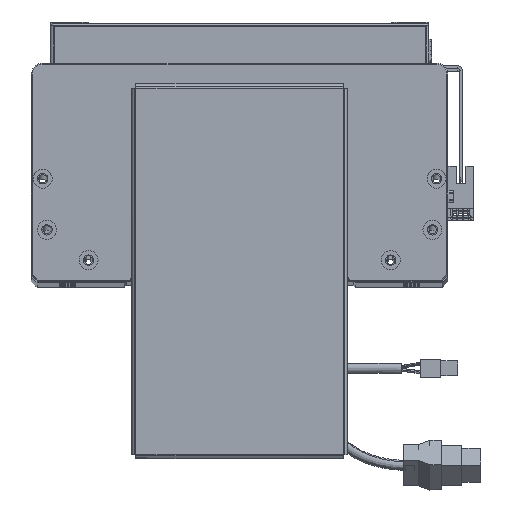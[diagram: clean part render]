
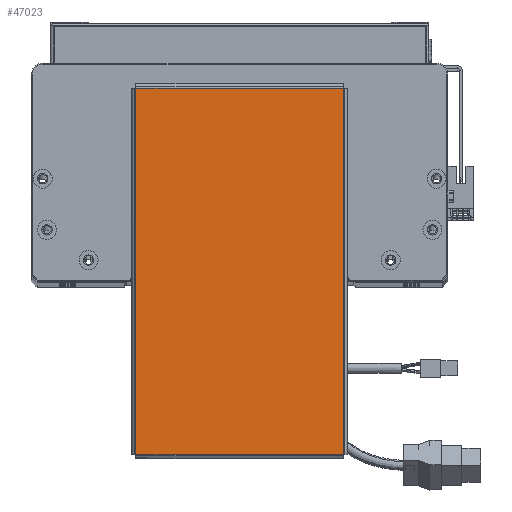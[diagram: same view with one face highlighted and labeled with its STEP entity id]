
A CAD part, top view. The second image highlights one B-rep face of the part: STEP entity #47023.
In plain terms, the highlighted planar face has unit normal (0, 0, 1).
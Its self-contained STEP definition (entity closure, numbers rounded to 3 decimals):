
#2224 = VECTOR ( 'NONE', #2305, 1000. ) ;
#2305 = DIRECTION ( 'NONE',  ( 0., 1., 0. ) ) ;
#3253 = EDGE_LOOP ( 'NONE', ( #23379, #36794, #6513, #28629 ) ) ;
#3279 = DIRECTION ( 'NONE',  ( 1., 0., 0. ) ) ;
#3644 = CARTESIAN_POINT ( 'NONE',  ( 96.763, -54.793, 0. ) ) ;
#6513 = ORIENTED_EDGE ( 'NONE', *, *, #23182, .T. ) ;
#7172 = CARTESIAN_POINT ( 'NONE',  ( -96.763, -54.763, 0. ) ) ;
#8309 = FACE_OUTER_BOUND ( 'NONE', #3253, .T. ) ;
#10160 = VERTEX_POINT ( 'NONE', #14798 ) ;
#11253 = LINE ( 'NONE', #38232, #30246 ) ;
#13963 = EDGE_CURVE ( 'NONE', #20159, #10160, #50251, .T. ) ;
#14798 = CARTESIAN_POINT ( 'NONE',  ( 96.763, -54.763, 0. ) ) ;
#14892 = DIRECTION ( 'NONE',  ( 0., -1., 0. ) ) ;
#16257 = LINE ( 'NONE', #3644, #2224 ) ;
#17020 = EDGE_CURVE ( 'NONE', #10160, #53255, #16257, .T. ) ;
#19674 = DIRECTION ( 'NONE',  ( 0., 0., 1. ) ) ;
#20159 = VERTEX_POINT ( 'NONE', #7172 ) ;
#21433 = VECTOR ( 'NONE', #30116, 1000. ) ;
#22757 = CARTESIAN_POINT ( 'NONE',  ( -96.763, 54.763, 0. ) ) ;
#23182 = EDGE_CURVE ( 'NONE', #53255, #23314, #11253, .T. ) ;
#23314 = VERTEX_POINT ( 'NONE', #22757 ) ;
#23379 = ORIENTED_EDGE ( 'NONE', *, *, #13963, .T. ) ;
#24187 = EDGE_CURVE ( 'NONE', #23314, #20159, #47300, .T. ) ;
#26127 = AXIS2_PLACEMENT_3D ( 'NONE', #45033, #19674, #3279 ) ;
#28629 = ORIENTED_EDGE ( 'NONE', *, *, #24187, .T. ) ;
#30116 = DIRECTION ( 'NONE',  ( 1., 0., 0. ) ) ;
#30246 = VECTOR ( 'NONE', #42838, 1000. ) ;
#35649 = CARTESIAN_POINT ( 'NONE',  ( -96.793, -54.763, 0. ) ) ;
#36794 = ORIENTED_EDGE ( 'NONE', *, *, #17020, .T. ) ;
#38232 = CARTESIAN_POINT ( 'NONE',  ( 96.793, 54.763, 0. ) ) ;
#42838 = DIRECTION ( 'NONE',  ( -1., 0., 0. ) ) ;
#45033 = CARTESIAN_POINT ( 'NONE',  ( 0., 0., 0. ) ) ;
#46694 = CARTESIAN_POINT ( 'NONE',  ( -96.763, 54.793, 0. ) ) ;
#47023 = ADVANCED_FACE ( 'NONE', ( #8309 ), #66225, .T. ) ;
#47300 = LINE ( 'NONE', #46694, #58866 ) ;
#50251 = LINE ( 'NONE', #35649, #21433 ) ;
#53255 = VERTEX_POINT ( 'NONE', #60500 ) ;
#58866 = VECTOR ( 'NONE', #14892, 1000. ) ;
#60500 = CARTESIAN_POINT ( 'NONE',  ( 96.763, 54.763, 0. ) ) ;
#66225 = PLANE ( 'NONE',  #26127 ) ;
